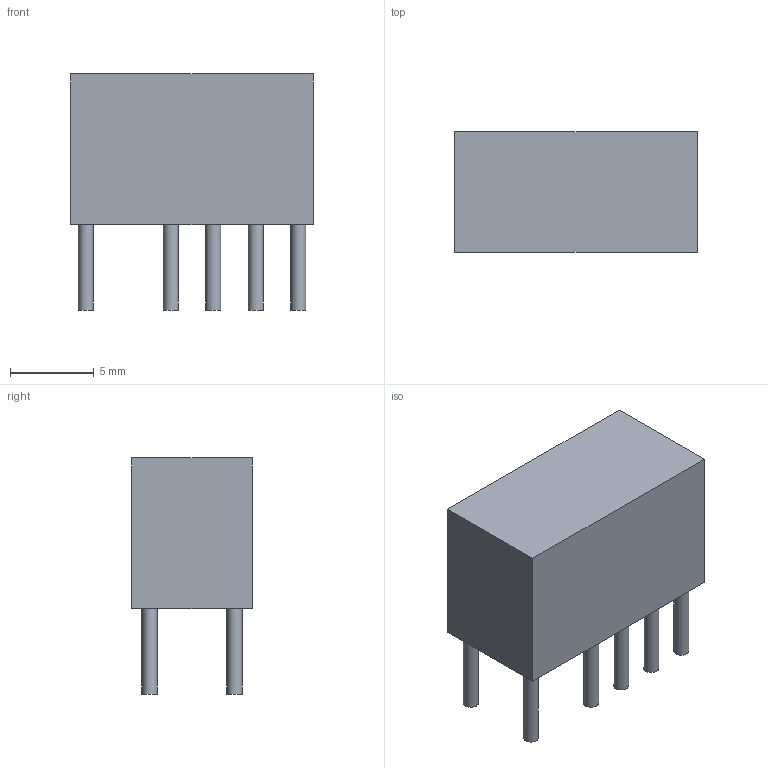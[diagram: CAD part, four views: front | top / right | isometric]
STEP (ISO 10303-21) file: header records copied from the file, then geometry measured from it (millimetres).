
FILE_DESCRIPTION(('FreeCAD Model'),'2;1');
FILE_NAME('/var/www/3D/0T/695017.1.2.stp','2020-04-09T06:24:17',( 'Author'),(''),'Open CASCADE STEP processor 6.9','FreeCAD','Unknown' );
FILE_SCHEMA(('AUTOMOTIVE_DESIGN { 1 0 10303 214 1 1 1 1 }'));
Length unit declared in the file: millimetre
Products named in the file (3): ASSEMBLY; Body; Leads
Assembly tree (11 placements, depth 2):
  ASSEMBLY
    Body
    Leads  x10
Bounding box: 14.5 x 7.2 x 14.1 mm (x, y, z)
Volume: 1264 mm3; surface area: 2168.6 mm2
Topology: 101 solids, 101 shells, 306 faces, 312 edges, 208 vertices
Faces by surface type: plane 206, cylinder 100
Full cylindrical faces by diameter (mm): 0.9 x100
Entity records: 1453 total; most frequent: DIRECTION 242, CARTESIAN_POINT 202, LINE 86, VECTOR 86, ORIENTED_EDGE 84, PCURVE 84, DEFINITIONAL_REPRESENTATION 84, AXIS2_PLACEMENT_3D 68
